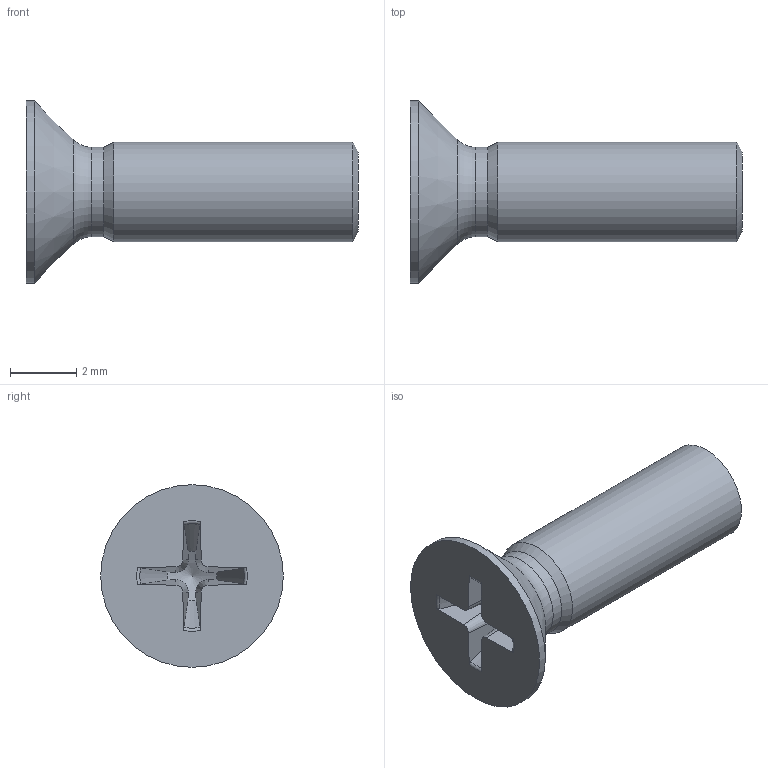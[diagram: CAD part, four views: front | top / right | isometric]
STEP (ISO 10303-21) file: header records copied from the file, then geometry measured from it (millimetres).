
FILE_DESCRIPTION(/* description */ ('Senkkopfschraube mit Kreuzschlitz M3x10 DIN 965','CAx-IF Rec.Pracs.---Representation and Presentation of Product Manufacturing Information (PMI)---4.0---2014-10-13'),/* implementation_level */ '2;1');
FILE_NAME(/* name */ 'G:\Alle CAD Daten\CAMTEC_2020_Pack and Go\PSU CPS-i3000 - CPS-i2000\2530366.stp',/* time_stamp */ '2020-09-20T19:43:41+02:00',/* author */ ('rryba'),/* organization */ (''),/* preprocessor_version */ 'ST-DEVELOPER v18.1',/* originating_system */ 'Autodesk Inventor 2021',/* authorisation */ '');
FILE_SCHEMA (('AP242_MANAGED_MODEL_BASED_3D_ENGINEERING_MIM_LF { 1 0 10303 442 1 1 4 }'));
Length unit declared in the file: millimetre
Products named in the file (1): 2530366
Bounding box: 10 x 5.5 x 5.5 mm (x, y, z)
Volume: 79.6 mm3; surface area: 150.9 mm2
Topology: 1 solids, 1 shells, 30 faces, 119 edges, 129 vertices
Faces by surface type: cone 12, plane 10, torus 5, cylinder 3
Full cylindrical faces by diameter (mm): 2.693 x1, 3 x1, 5.5 x1
Entity records: 1322 total; most frequent: CARTESIAN_POINT 381, DIRECTION 185, ORIENTED_EDGE 160, EDGE_CURVE 80, AXIS2_PLACEMENT_3D 77, VERTEX_POINT 53, CIRCLE 46, STYLED_ITEM 41
